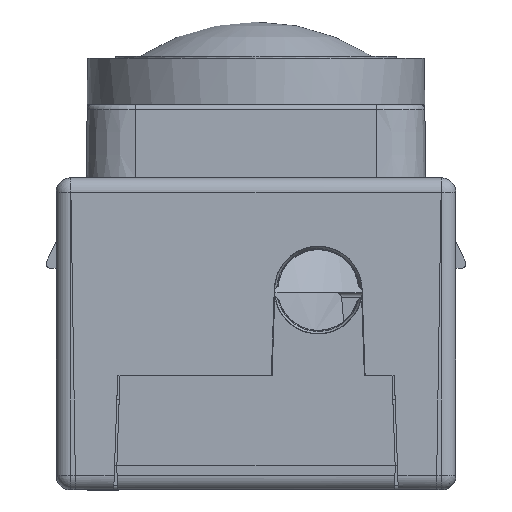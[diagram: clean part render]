
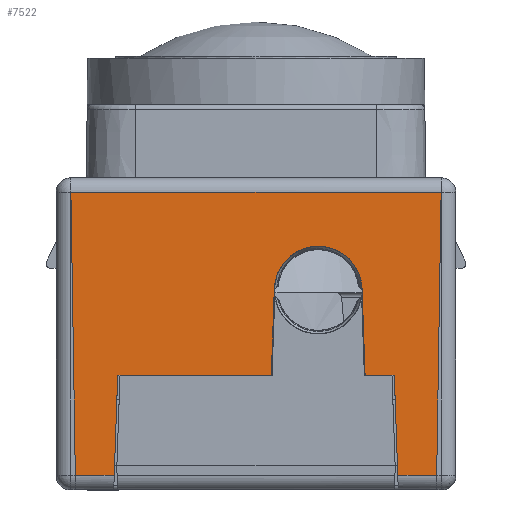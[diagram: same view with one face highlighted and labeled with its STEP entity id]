
A CAD part, left-side view. The second image highlights one B-rep face of the part: STEP entity #7522.
In plain terms, the highlighted planar face has unit normal (-1, 0, 0.009).
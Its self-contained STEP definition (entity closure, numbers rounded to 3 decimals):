
#1959=CARTESIAN_POINT('',(-1.709,12.126,-0.09));
#1960=VERTEX_POINT('',#1959);
#1961=CARTESIAN_POINT('',(-1.709,11.996,-0.09));
#1962=VERTEX_POINT('',#1961);
#1963=CARTESIAN_POINT('',(-1.709,12.126,-0.09));
#1964=DIRECTION('',(0.0,-1.0,0.0));
#1965=VECTOR('',#1964,0.129);
#1966=LINE('',#1963,#1965);
#1967=EDGE_CURVE('',#1960,#1962,#1966,.T.);
#1999=CARTESIAN_POINT('',(-1.709,1.104,-0.09));
#2000=VERTEX_POINT('',#1999);
#2001=CARTESIAN_POINT('',(-1.709,0.974,-0.09));
#2002=VERTEX_POINT('',#2001);
#2003=CARTESIAN_POINT('',(-1.709,1.104,-0.09));
#2004=DIRECTION('',(0.0,-1.0,0.0));
#2005=VECTOR('',#2004,0.129);
#2006=LINE('',#2003,#2005);
#2007=EDGE_CURVE('',#2000,#2002,#2006,.T.);
#3533=CARTESIAN_POINT('',(-1.709,2.077,-0.09));
#3534=VERTEX_POINT('',#3533);
#3535=CARTESIAN_POINT('',(-1.709,2.077,-0.09));
#3536=DIRECTION('',(0.0,-1.0,0.0));
#3537=VECTOR('',#3536,0.973);
#3538=LINE('',#3535,#3537);
#3539=EDGE_CURVE('',#3534,#2000,#3538,.T.);
#3638=CARTESIAN_POINT('',(-1.709,5.923,-0.09));
#3639=VERTEX_POINT('',#3638);
#3640=CARTESIAN_POINT('',(-1.709,11.996,-0.09));
#3641=DIRECTION('',(0.0,-1.0,0.0));
#3642=VECTOR('',#3641,6.073);
#3643=LINE('',#3640,#3642);
#3644=EDGE_CURVE('',#1962,#3639,#3643,.T.);
#6754=CARTESIAN_POINT('',(-1.678,5.799,3.473));
#6755=VERTEX_POINT('',#6754);
#6762=CARTESIAN_POINT('',(-1.709,5.923,-0.09));
#6763=DIRECTION('',(0.009,-0.035,0.999));
#6764=VECTOR('',#6763,3.565);
#6765=LINE('',#6762,#6764);
#6766=EDGE_CURVE('',#3639,#6755,#6765,.T.);
#6778=CARTESIAN_POINT('',(-1.709,12.221,-0.09));
#6779=VERTEX_POINT('',#6778);
#6780=CARTESIAN_POINT('',(-1.709,12.221,-0.09));
#6781=DIRECTION('',(0.0,-1.0,0.0));
#6782=VECTOR('',#6781,0.095);
#6783=LINE('',#6780,#6782);
#6784=EDGE_CURVE('',#6779,#1960,#6783,.T.);
#6958=CARTESIAN_POINT('',(-1.678,2.201,3.473));
#6959=VERTEX_POINT('',#6958);
#6960=CARTESIAN_POINT('',(-1.678,2.201,3.473));
#6961=DIRECTION('',(-0.009,-0.035,-0.999));
#6962=VECTOR('',#6961,3.565);
#6963=LINE('',#6960,#6962);
#6964=EDGE_CURVE('',#6959,#3534,#6963,.T.);
#7117=CARTESIAN_POINT('',(-1.678,4.,3.41));
#7118=DIRECTION('',(1.,0.,-0.009));
#7119=DIRECTION('',(-0.009,0.,-1.));
#7120=AXIS2_PLACEMENT_3D('',#7117,#7118,#7119);
#7121=ELLIPSE('',#7120,1.8,1.8);
#7122=EDGE_CURVE('',#6755,#6959,#7121,.T.);
#7164=CARTESIAN_POINT('',(-1.709,0.879,-0.09));
#7165=VERTEX_POINT('',#7164);
#7172=CARTESIAN_POINT('',(-1.709,0.974,-0.09));
#7173=DIRECTION('',(0.0,-1.0,0.0));
#7174=VECTOR('',#7173,0.095);
#7175=LINE('',#7172,#7174);
#7176=EDGE_CURVE('',#2002,#7165,#7175,.T.);
#7186=CARTESIAN_POINT('',(-1.745,13.958,-4.185));
#7187=VERTEX_POINT('',#7186);
#7205=CARTESIAN_POINT('',(-1.745,12.364,-4.185));
#7206=VERTEX_POINT('',#7205);
#7214=CARTESIAN_POINT('',(-1.745,12.364,-4.185));
#7215=DIRECTION('',(0.0,1.0,0.0));
#7216=VECTOR('',#7215,1.595);
#7217=LINE('',#7214,#7216);
#7218=EDGE_CURVE('',#7206,#7187,#7217,.T.);
#7433=CARTESIAN_POINT('',(-1.643,14.141,7.415));
#7434=VERTEX_POINT('',#7433);
#7444=CARTESIAN_POINT('',(-1.643,-1.041,7.415));
#7445=VERTEX_POINT('',#7444);
#7446=CARTESIAN_POINT('',(-1.643,14.141,7.415));
#7447=DIRECTION('',(0.0,-1.0,0.0));
#7448=VECTOR('',#7447,15.181);
#7449=LINE('',#7446,#7448);
#7450=EDGE_CURVE('',#7434,#7445,#7449,.T.);
#7470=CARTESIAN_POINT('',(-1.75,6.55,-4.79));
#7471=DIRECTION('',(-1.,0.,0.009));
#7472=DIRECTION('',(-0.009,0.,-1.));
#7473=AXIS2_PLACEMENT_3D('',#7470,#7471,#7472);
#7474=PLANE('',#7473);
#7475=ORIENTED_EDGE('',*,*,#6964,.T.);
#7476=ORIENTED_EDGE('',*,*,#3539,.T.);
#7477=ORIENTED_EDGE('',*,*,#2007,.T.);
#7478=ORIENTED_EDGE('',*,*,#7176,.T.);
#7479=CARTESIAN_POINT('',(-1.745,0.736,-4.185));
#7480=VERTEX_POINT('',#7479);
#7481=CARTESIAN_POINT('',(-1.745,0.736,-4.185));
#7482=DIRECTION('',(0.009,0.035,0.999));
#7483=VECTOR('',#7482,4.097);
#7484=LINE('',#7481,#7483);
#7485=EDGE_CURVE('',#7165,#7480,#7484,.F.);
#7486=ORIENTED_EDGE('',*,*,#7485,.T.);
#7487=CARTESIAN_POINT('',(-1.745,-0.858,-4.185));
#7488=VERTEX_POINT('',#7487);
#7489=CARTESIAN_POINT('',(-1.745,-0.858,-4.185));
#7490=DIRECTION('',(0.0,1.0,0.0));
#7491=VECTOR('',#7490,1.595);
#7492=LINE('',#7489,#7491);
#7493=EDGE_CURVE('',#7488,#7480,#7492,.T.);
#7494=ORIENTED_EDGE('',*,*,#7493,.F.);
#7495=CARTESIAN_POINT('',(-1.643,-1.041,7.415));
#7496=DIRECTION('',(-0.009,0.016,-1.));
#7497=VECTOR('',#7496,11.602);
#7498=LINE('',#7495,#7497);
#7499=EDGE_CURVE('',#7445,#7488,#7498,.T.);
#7500=ORIENTED_EDGE('',*,*,#7499,.F.);
#7501=ORIENTED_EDGE('',*,*,#7450,.F.);
#7502=CARTESIAN_POINT('',(-1.745,13.958,-4.185));
#7503=DIRECTION('',(0.009,0.016,1.));
#7504=VECTOR('',#7503,11.602);
#7505=LINE('',#7502,#7504);
#7506=EDGE_CURVE('',#7187,#7434,#7505,.T.);
#7507=ORIENTED_EDGE('',*,*,#7506,.F.);
#7508=ORIENTED_EDGE('',*,*,#7218,.F.);
#7509=CARTESIAN_POINT('',(-1.709,12.221,-0.09));
#7510=DIRECTION('',(-0.009,0.035,-0.999));
#7511=VECTOR('',#7510,4.097);
#7512=LINE('',#7509,#7511);
#7513=EDGE_CURVE('',#7206,#6779,#7512,.F.);
#7514=ORIENTED_EDGE('',*,*,#7513,.T.);
#7515=ORIENTED_EDGE('',*,*,#6784,.T.);
#7516=ORIENTED_EDGE('',*,*,#1967,.T.);
#7517=ORIENTED_EDGE('',*,*,#3644,.T.);
#7518=ORIENTED_EDGE('',*,*,#6766,.T.);
#7519=ORIENTED_EDGE('',*,*,#7122,.T.);
#7520=EDGE_LOOP('',(#7475,#7476,#7477,#7478,#7486,#7494,#7500,#7501,#7507,#7508,#7514,#7515,#7516,#7517,#7518,#7519));
#7521=FACE_OUTER_BOUND('',#7520,.T.);
#7522=ADVANCED_FACE('',(#7521),#7474,.T.);
